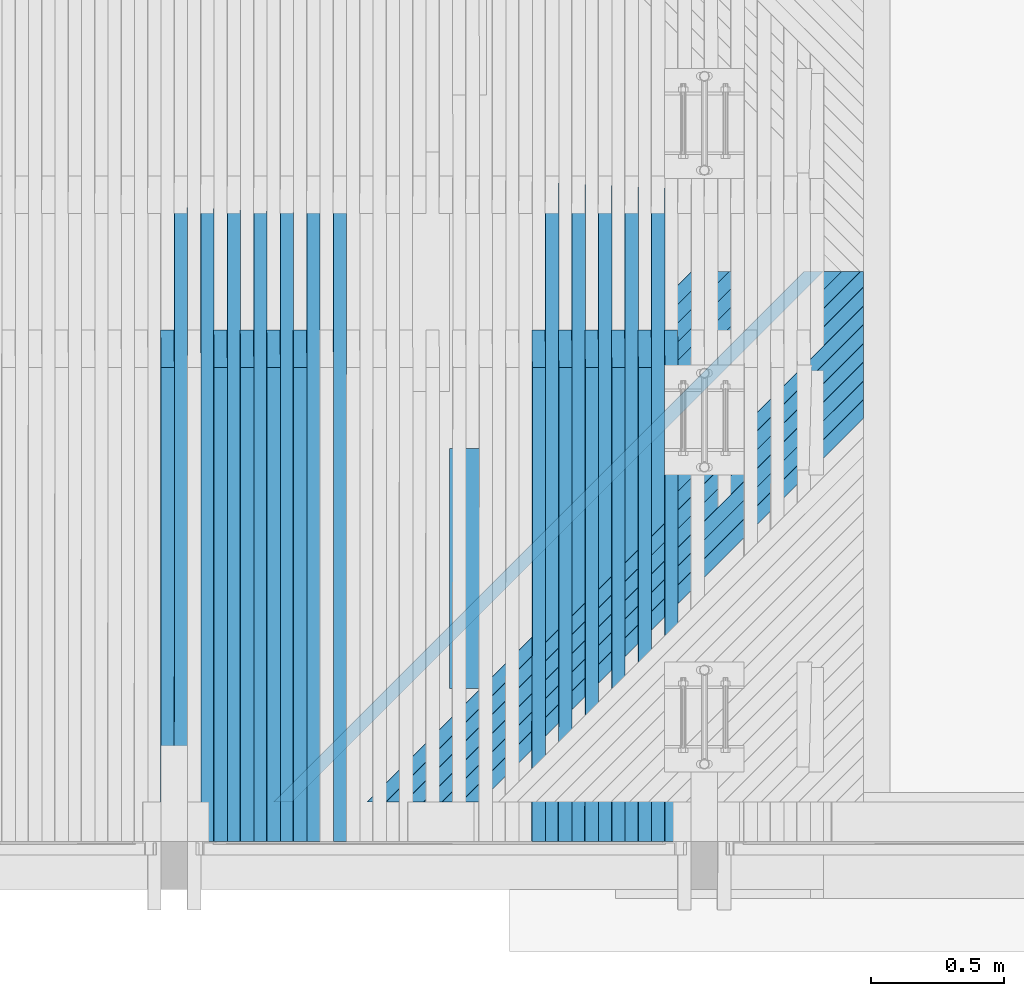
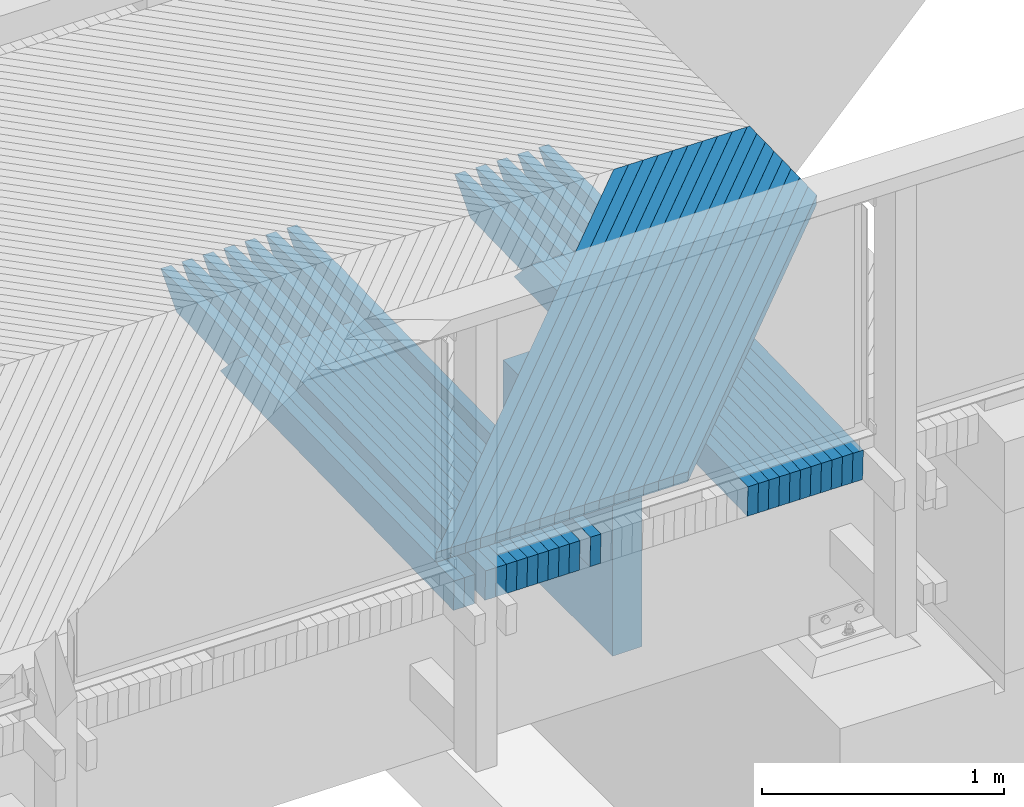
# One storey, part 42 of 65: 41 beams.
"""IFC2X3 building model written with IfcOpenShell, lengths in millimetres."""

import ifcopenshell
import ifcopenshell.guid

model = None  # the IFC model being written
_history = None  # IfcOwnerHistory: only IFC2X3 demands one
_inside = {}  # id of a spatial element -> (the spatial element, [elements in it])
_under = {}  # id of a project, library or spatial element -> (it, [spatial elements below it])
_declared = {}  # id of a project -> (the project, [libraries it declares])
_typed = {}  # id of a type object -> (the type object, [elements of that type])
_made_of = {}  # id of a material, layer set ... -> (it, [elements and type objects made of it])


def new_model(schema):
    """Start an empty IFC model of exactly this schema.

    Asked for "IFC4X3", IfcOpenShell would pick the latest addendum, in which some entities
    have other attributes; the version numbers below select the first issue.
    IFC2X3 requires an IfcOwnerHistory on every rooted entity: one is made here for all.
    """
    global model, _history
    if schema == "IFC4X3":
        model = ifcopenshell.file(schema_version=(4, 3, 0, 0))
    else:
        model = ifcopenshell.file(schema=schema)
    _inside.clear()
    _under.clear()
    _declared.clear()
    _typed.clear()
    _made_of.clear()
    _history = None
    if model.schema == "IFC2X3":
        org = make("IfcOrganization", Name="unknown")
        user = make(
            "IfcPersonAndOrganization",
            ThePerson=make("IfcPerson", FamilyName="unknown"),
            TheOrganization=org,
        )
        app = make(
            "IfcApplication",
            ApplicationDeveloper=org,
            Version="unknown",
            ApplicationFullName="unknown",
            ApplicationIdentifier="unknown",
        )
        _history = make(
            "IfcOwnerHistory",
            OwningUser=user,
            OwningApplication=app,
            ChangeAction="ADDED",
            CreationDate=0,
        )
    return model


def make(cls, **values):
    """One entity of the class cls with the attributes given. An attribute that is None is left unset."""
    return model.create_entity(
        cls, **{name: value for name, value in values.items() if value is not None}
    )


def rooted(cls, **values):
    """An entity with a GlobalId (a new one), such as an element, a storey or a relation."""
    return make(cls, GlobalId=ifcopenshell.guid.new(), OwnerHistory=_history, **values)


def si_unit(unit_type, name, prefix=None):
    """IfcSIUnit, for example si_unit("LENGTHUNIT", "METRE", prefix="MILLI")."""
    return make("IfcSIUnit", UnitType=unit_type, Prefix=prefix, Name=name)


def assignment(units):
    """IfcUnitAssignment: the units of a project."""
    return None if units is None else make("IfcUnitAssignment", Units=units)


def point(xyz):
    """IfcCartesianPoint."""
    return None if xyz is None else make("IfcCartesianPoint", Coordinates=xyz)


def direction(xyz):
    """IfcDirection."""
    return None if xyz is None else make("IfcDirection", DirectionRatios=xyz)


def frame(location, z_axis=None, x_axis=None):
    """IfcAxis2Placement3D, a coordinate frame: its origin and axes. An axis left out is left unset."""
    return make(
        "IfcAxis2Placement3D",
        Location=point(location),
        Axis=direction(z_axis),
        RefDirection=direction(x_axis),
    )


def origin_with_axes():
    """The frame at (0, 0, 0) with the z axis (0, 0, 1) and the x axis (1, 0, 0) written out."""
    return frame((0.0, 0.0, 0.0), z_axis=(0.0, 0.0, 1.0), x_axis=(1.0, 0.0, 0.0))


def place(relative_to, where):
    """IfcLocalPlacement: puts the frame where relative to a parent placement (None: the world)."""
    return make(
        "IfcLocalPlacement", PlacementRelTo=relative_to, RelativePlacement=where
    )


def context(
    kind, dimensions, precision=None, world=None, true_north=None, identifier=None
):
    """IfcGeometricRepresentationContext, for example the 3D "Model" context."""
    return make(
        "IfcGeometricRepresentationContext",
        ContextIdentifier=identifier,
        ContextType=kind,
        CoordinateSpaceDimension=dimensions,
        Precision=precision,
        WorldCoordinateSystem=world,
        TrueNorth=true_north,
    )


def subcontext(parent, identifier, kind, view, scale=None):
    """IfcGeometricRepresentationSubContext, for example "Body" below "Model"."""
    return make(
        "IfcGeometricRepresentationSubContext",
        ContextIdentifier=identifier,
        ContextType=kind,
        ParentContext=parent,
        TargetScale=scale,
        TargetView=view,
    )


def project(units=None, contexts=None):
    """IfcProject with its units and contexts."""
    return rooted(
        "IfcProject",
        Name="project",
        RepresentationContexts=contexts,
        UnitsInContext=assignment(units),
    )


def spatial(cls, under=None, at=None, **own):
    """A site, building, storey or space (cls), placed at a placement, below another one or the project."""
    s = rooted(cls, ObjectPlacement=at, **own)
    if under is not None:
        _under.setdefault(under.id(), (under, []))[1].append(s)
    return s


def faces_of(points, faces, orient=None, outer=None):
    """IfcFace entities. A face is a list of loops; a loop is a list of indices into points, from 0.

    orient and outer hold one flag for each loop. By default every Orientation is true, the
    first loop of a face is its IfcFaceOuterBound and the others are IfcFaceBound.
    """
    made = []
    for i, loops in enumerate(faces):
        bounds = []
        for j, loop in enumerate(loops):
            is_outer = j == 0 if outer is None else outer[i][j]
            bounds.append(
                make(
                    "IfcFaceOuterBound" if is_outer else "IfcFaceBound",
                    Bound=make("IfcPolyLoop", Polygon=[points[k] for k in loop]),
                    Orientation=True if orient is None else orient[i][j],
                )
            )
        made.append(make("IfcFace", Bounds=bounds))
    return made


def faceted_brep(points, faces, orient=None, outer=None, voids=None):
    """IfcFacetedBrep: a solid bounded by flat faces; with voids (closed shells), ...WithVoids."""
    shared = [point(p) for p in points]
    hull = make("IfcClosedShell", CfsFaces=faces_of(shared, faces, orient, outer))
    if voids is None:
        return make("IfcFacetedBrep", Outer=hull)
    return make(
        "IfcFacetedBrepWithVoids",
        Outer=hull,
        Voids=[
            make(cls, CfsFaces=faces_of(shared, fs, o, b)) for cls, fs, o, b in voids
        ],
    )


def shape(context_of_items, identifier, shape_type, items):
    """IfcShapeRepresentation: the items that make up one representation, for example the "Body"."""
    return make(
        "IfcShapeRepresentation",
        ContextOfItems=context_of_items,
        RepresentationIdentifier=identifier,
        RepresentationType=shape_type,
        Items=items,
    )


def material(Name=None, Category=None):
    """IfcMaterial."""
    return make("IfcMaterial", Name=Name, Category=Category)


def made_of(thing, what):
    """Note that an element or type object is made of a material, layer set ...; save() writes the relation."""
    if what is not None:
        _made_of.setdefault(what.id(), (what, []))[1].append(thing)
    return thing


def type_object(cls, material=None, **own):
    """A type object (cls), such as IfcWallType, which elements share."""
    return made_of(rooted(cls, **own), material)


def element(
    cls,
    number,
    at=None,
    inside=None,
    cuts=None,
    type_object=None,
    material=None,
    context=None,
    identifier="Body",
    shape_type=None,
    held_by="IfcProductDefinitionShape",
    body=None,
    shapes=None,
    **own,
):
    """One element of the class cls, such as IfcWall. Its Tag is "e" and its number.

    at: its placement. inside: the storey or other place that contains it. cuts: it is an
    opening in that element (IfcRelVoidsElement). A single representation is given by context,
    identifier, shape_type and body (its items); several are given by shapes. held_by: the class
    of the entity that holds the representations. save() writes the other relations.
    """
    e = rooted(cls, Tag="e%d" % number, ObjectPlacement=at, **own)
    if body is not None:
        shapes = [shape(context, identifier, shape_type, body)]
    if shapes is not None:
        e.Representation = make(held_by, Representations=shapes)
    if inside is not None:
        _inside.setdefault(inside.id(), (inside, []))[1].append(e)
    if cuts is not None:
        rooted(
            "IfcRelVoidsElement", RelatingBuildingElement=cuts, RelatedOpeningElement=e
        )
    if type_object is not None:
        _typed.setdefault(type_object.id(), (type_object, []))[1].append(e)
    return made_of(e, material)


def aggregate(whole, parts):
    """IfcRelAggregates: a whole, such as a stair, and the parts it consists of."""
    return rooted("IfcRelAggregates", RelatingObject=whole, RelatedObjects=parts)


def save(model, path):
    """Write the relations noted so far, then the file.

    IfcRelAggregates (storeys below a building ...), IfcRelContainedInSpatialStructure (elements
    in a storey), IfcRelDefinesByType, IfcRelAssociatesMaterial and IfcRelDeclares: one each for
    every whole, place, type object, material and project.
    """
    for whole, parts in _under.values():
        aggregate(whole, parts)
    for where, things in _inside.values():
        rooted(
            "IfcRelContainedInSpatialStructure",
            RelatedElements=things,
            RelatingStructure=where,
        )
    for kind, things in _typed.values():
        rooted("IfcRelDefinesByType", RelatedObjects=things, RelatingType=kind)
    for what, things in _made_of.values():
        rooted("IfcRelAssociatesMaterial", RelatedObjects=things, RelatingMaterial=what)
    for by, libraries in _declared.values():
        rooted("IfcRelDeclares", RelatingContext=by, RelatedDefinitions=libraries)
    model.write(path)


model = new_model("IFC2X3")

# Units and contexts
model_context = context("Model", 3, precision=1e-05, world=origin_with_axes())
body_context = subcontext(model_context, "Body", "Model", "MODEL_VIEW")
ifc_project = project(units=[si_unit("LENGTHUNIT", "METRE", prefix="MILLI"), si_unit("AREAUNIT", "SQUARE_METRE"), si_unit("VOLUMEUNIT", "CUBIC_METRE"), si_unit("MASSUNIT", "GRAM", prefix="KILO"), si_unit("TIMEUNIT", "SECOND"), si_unit("PLANEANGLEUNIT", "RADIAN"), si_unit("SOLIDANGLEUNIT", "STERADIAN"), si_unit("THERMODYNAMICTEMPERATUREUNIT", "DEGREE_CELSIUS"), si_unit("LUMINOUSINTENSITYUNIT", "LUMEN")], contexts=[model_context])

# Site, building, storey
site_placement = place(None, origin_with_axes())
site = spatial("IfcSite", under=ifc_project, at=site_placement, Name="Undefined", CompositionType="ELEMENT")
building_placement = place(site_placement, origin_with_axes())
building = spatial("IfcBuilding", under=site, at=building_placement, Name="Undefined", CompositionType="ELEMENT")
storey_placement = place(building_placement, origin_with_axes())
storey = spatial("IfcBuildingStorey", under=building, at=storey_placement, Name="Undefined", CompositionType="ELEMENT", Elevation=0.0)

# Beams
ifc_material = material(Name="TIMBER/Timber_Undefined")
beam_type_1 = type_object("IfcBeamType", Name="945*140", PredefinedType="NOTDEFINED")
beam_1_placement = place(storey_placement, frame((15109.0, 21697.5, 2500.4679002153), z_axis=(0.0, 0.0, 1.0), x_axis=(0.0, -1.0, 0.0)))
element("IfcBeam", 1, at=beam_1_placement, inside=storey, type_object=beam_type_1, material=ifc_material, Name="PALKKI", ObjectType="945*140", context=body_context, shape_type="Brep", body=[
    faceted_brep([(0.0, 70.0, -472.5), (0.0, 70.0, 472.5), (905.0, 70.0, 472.5), (905.0, 70.0, -472.5), (0.0, -70.0, 472.5), (905.0, -70.0, 472.5), (0.0, -70.0, -472.5), (905.0, -70.0, -472.5)], [[[0, 1, 2, 3]], [[1, 4, 5, 2]], [[4, 6, 7, 5]], [[6, 0, 3, 7]], [[5, 7, 3, 2]], [[6, 4, 1, 0]]]),
])
beam_type_2 = type_object("IfcBeamType", Name="50*50", PredefinedType="NOTDEFINED")
beam_2_placement = place(storey_placement, frame((17117.4357443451, 22364.5001003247, 3167.08782657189), z_axis=(0.706838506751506, -0.706981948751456, -0.0235764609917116), x_axis=(-0.707249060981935, -0.706948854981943, -0.00469916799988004)))
element("IfcBeam", 2, at=beam_2_placement, inside=storey, type_object=beam_type_2, material=ifc_material, Name="BEAM", ObjectType="50*50", context=body_context, shape_type="Brep", body=[
    faceted_brep([(2802.92643296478, -25.0, 25.0000000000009), (2852.92877373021, -25.0000000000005, -24.9999999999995), (2854.34301907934, 24.9999999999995, -25.0), (2804.3406783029, 25.0, 25.0000000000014), (706.160221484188, 25.0, -25.0000000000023), (756.131196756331, 24.9999999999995, 25.0), (757.074649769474, -25.0, 24.999999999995), (707.103674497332, -24.9999999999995, -25.0000000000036)], [[[0, 1, 2, 3]], [[3, 2, 4, 5]], [[0, 3, 5, 6]], [[1, 0, 6, 7]], [[2, 1, 7, 4]], [[6, 5, 4, 7]]]),
])
beam_3_placement = place(storey_placement, frame((17046.7195569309, 22364.5001003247, 3168.15461339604), z_axis=(0.706841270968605, -0.706981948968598, -0.0234934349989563), x_axis=(-0.707248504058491, -0.706948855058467, -0.00478224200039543)))
element("IfcBeam", 3, at=beam_3_placement, inside=storey, type_object=beam_type_2, material=ifc_material, Name="BEAM", ObjectType="50*50", context=body_context, shape_type="Brep", body=[
    faceted_brep([(2802.92643296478, -25.0, 25.0000000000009), (2852.92877373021, -25.0000000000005, -24.9999999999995), (2854.34301907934, 24.9999999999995, -25.0), (2804.3406783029, 25.0, 25.0000000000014), (606.177079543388, 24.9999999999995, -25.0000000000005), (656.148289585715, 24.9999999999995, 24.9999999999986), (657.083441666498, -25.0000000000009, 24.9999999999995), (607.112231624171, -25.0000000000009, -25.0000000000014)], [[[0, 1, 2, 3]], [[3, 2, 4, 5]], [[0, 3, 5, 6]], [[1, 0, 6, 7]], [[2, 1, 7, 4]], [[6, 5, 4, 7]]]),
])
beam_4_placement = place(storey_placement, frame((16976.0032446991, 22364.5001003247, 3169.21309384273), z_axis=(0.70684402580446, -0.706981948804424, -0.0234104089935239), x_axis=(-0.707247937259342, -0.706948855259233, -0.00486531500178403)))
element("IfcBeam", 4, at=beam_4_placement, inside=storey, type_object=beam_type_2, material=ifc_material, Name="BEAM", ObjectType="50*50", context=body_context, shape_type="Brep", body=[
    faceted_brep([(2802.92643296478, -25.0, 25.0000000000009), (2852.92877373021, -25.0000000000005, -24.9999999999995), (2854.34301907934, 24.9999999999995, -25.0), (2804.3406783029, 25.0, 25.0000000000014), (506.193611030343, 24.9999999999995, -25.0000000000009), (556.165055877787, 24.9999999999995, 24.9999999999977), (557.091907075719, -25.0000000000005, 25.0000000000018), (507.120462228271, -25.0000000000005, -25.0000000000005)], [[[0, 1, 2, 3]], [[3, 2, 4, 5]], [[0, 3, 5, 6]], [[1, 0, 6, 7]], [[2, 1, 7, 4]], [[6, 5, 4, 7]]]),
])
beam_5_placement = place(storey_placement, frame((16905.2868086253, 22364.5001003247, 3170.26326789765), z_axis=(0.706846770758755, -0.70698194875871, -0.0233273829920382), x_axis=(-0.707247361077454, -0.706948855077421, -0.00494838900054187)))
element("IfcBeam", 5, at=beam_5_placement, inside=storey, type_object=beam_type_2, material=ifc_material, Name="BEAM", ObjectType="50*50", context=body_context, shape_type="Brep", body=[
    faceted_brep([(2802.92643296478, -25.0, 25.0000000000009), (2852.92877373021, -25.0000000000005, -24.9999999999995), (2854.34301907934, 24.9999999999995, -25.0), (2804.3406783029, 25.0, 25.0000000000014), (406.209812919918, 25.0, -25.0000000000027), (456.181492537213, 24.9999999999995, 24.9999999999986), (457.100042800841, -25.0000000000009, 24.9999999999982), (407.128363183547, -25.0000000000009, -25.0000000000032)], [[[0, 1, 2, 3]], [[3, 2, 4, 5]], [[0, 3, 5, 6]], [[1, 0, 6, 7]], [[2, 1, 7, 4]], [[6, 5, 4, 7]]]),
])
beam_6_placement = place(storey_placement, frame((16834.5702496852, 22364.5001003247, 3171.30513554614), z_axis=(0.706849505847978, -0.706981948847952, -0.023244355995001), x_axis=(-0.707246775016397, -0.70694885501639, -0.00503146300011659)))
element("IfcBeam", 6, at=beam_6_placement, inside=storey, type_object=beam_type_2, material=ifc_material, Name="BEAM", ObjectType="50*50", context=body_context, shape_type="Brep", body=[
    faceted_brep([(2802.92643296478, -25.0, 25.0000000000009), (2852.92877373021, -25.0000000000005, -24.9999999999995), (2854.34301907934, 24.9999999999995, -25.0), (2804.3406783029, 25.0, 25.0000000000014), (306.225682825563, 25.0, -25.0000000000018), (356.197597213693, 25.0000000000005, 24.9999999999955), (357.107846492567, -25.0, 24.9999999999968), (307.13593210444, -24.9999999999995, -25.0000000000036)], [[[0, 1, 2, 3]], [[3, 2, 4, 5]], [[0, 3, 5, 6]], [[1, 0, 6, 7]], [[2, 1, 7, 4]], [[6, 5, 4, 7]]]),
])
beam_7_placement = place(storey_placement, frame((16763.8535688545, 22364.5001003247, 3172.33869677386), z_axis=(0.706852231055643, -0.706981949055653, -0.0231613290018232), x_axis=(-0.707246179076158, -0.706948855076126, -0.0051145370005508)))
element("IfcBeam", 7, at=beam_7_placement, inside=storey, type_object=beam_type_2, material=ifc_material, Name="BEAM", ObjectType="50*50", context=body_context, shape_type="Brep", body=[
    faceted_brep([(2802.92643296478, -25.0, 25.0000000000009), (2852.92877373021, -25.0000000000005, -24.9999999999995), (2854.34301907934, 24.9999999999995, -25.0), (2804.3406783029, 25.0, 25.0000000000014), (206.241217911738, 25.0000000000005, -25.0), (256.213367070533, 25.0000000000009, 25.0000000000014), (257.115315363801, -25.0, 25.0000000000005), (207.143166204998, -25.0, -25.0000000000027)], [[[0, 1, 2, 3]], [[3, 2, 4, 5]], [[0, 3, 5, 6]], [[1, 0, 6, 7]], [[2, 1, 7, 4]], [[6, 5, 4, 7]]]),
])
beam_8_placement = place(storey_placement, frame((16693.1367671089, 22364.5001003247, 3173.36395156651), z_axis=(0.706854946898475, -0.706981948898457, -0.0230783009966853), x_axis=(-0.7072455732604, -0.706948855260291, -0.00519761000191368)))
element("IfcBeam", 8, at=beam_8_placement, inside=storey, type_object=beam_type_2, material=ifc_material, Name="BEAM", ObjectType="50*50", context=body_context, shape_type="Brep", body=[
    faceted_brep([(2802.92643296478, -25.0, 25.0000000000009), (2852.92877373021, -25.0000000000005, -24.9999999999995), (2854.34301907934, 24.9999999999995, -25.0), (2804.3406783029, 25.0, 25.0000000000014), (106.256415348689, 25.0000000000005, -25.0), (156.228799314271, 25.0, 25.0000000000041), (157.122446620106, -25.0, 25.0000000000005), (107.150062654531, -25.0000000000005, -24.9999999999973)], [[[0, 1, 2, 3]], [[3, 2, 4, 5]], [[0, 3, 5, 6]], [[1, 0, 6, 7]], [[2, 1, 7, 4]], [[6, 5, 4, 7]]]),
])
beam_9_placement = place(storey_placement, frame((16622.419845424, 22364.5001003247, 3174.38089991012), z_axis=(0.70685765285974, -0.706981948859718, -0.0229952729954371), x_axis=(-0.707244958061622, -0.706948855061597, -0.00528068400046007)))
element("IfcBeam", 9, at=beam_9_placement, inside=storey, type_object=beam_type_2, material=ifc_material, Name="BEAM", ObjectType="50*50", context=body_context, shape_type="Brep", body=[
    faceted_brep([(2802.92643296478, -25.0, 25.0000000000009), (2852.92877373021, -25.0000000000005, -24.9999999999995), (2854.34301907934, 24.9999999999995, -25.0), (2804.3406783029, 25.0, 25.0000000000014), (23.4806436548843, -24.9999999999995, -25.0000000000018), (24.8942457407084, 25.0000000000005, -25.0000000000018), (15.3243279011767, -25.0000000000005, -16.8278154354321), (15.5892580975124, 25.0000000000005, -15.6769087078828), (56.2438911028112, 25.0, 25.0), (57.1292373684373, -25.0000000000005, 25.0000000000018)], [[[0, 1, 2, 3]], [[4, 5, 2, 1]], [[5, 4, 6, 7]], [[3, 2, 5, 7, 8]], [[0, 3, 8, 9]], [[4, 1, 0, 9, 6]], [[8, 7, 6, 9]]]),
])
for number, where, z_axis, x_axis, name in (
    (10, (16551.7028047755, 22364.5001003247, 3175.38954179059), (0.706860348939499, -0.70698194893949, -0.0229122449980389), (-0.707244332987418, -0.706948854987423, -0.00536375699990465), "BEAM"),
    (11, (16480.9856461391, 22364.5001003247, 3176.38987719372), (0.706863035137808, -0.706981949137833, -0.0228292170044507), (-0.707243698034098, -0.706948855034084, -0.00544683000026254), "BEAM"),
    (12, (16410.2683704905, 22364.5001003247, 3177.38190610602), (0.706865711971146, -0.706981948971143, -0.0227461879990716), (-0.707243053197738, -0.706948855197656, -0.00552990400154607), "BEAM"),
    (13, (16339.5509788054, 22364.5001003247, 3178.36562851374), (0.706868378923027, -0.706981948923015, -0.0226631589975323), (-0.707242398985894, -0.7069488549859, -0.00561297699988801), "BEAM"),
    (14, (16268.8334720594, 22364.5001003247, 3179.34104440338), (0.706871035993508, -0.706981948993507, -0.0225801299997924), (-0.707241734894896, -0.706948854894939, -0.00569604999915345), "BEAM"),
    (15, (16198.1158512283, 22364.5001003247, 3180.30815376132), (0.706873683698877, -0.706981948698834, -0.0224970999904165), (-0.707241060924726, -0.706948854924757, -0.00577912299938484), "BEAM"),
    (16, (16127.3981172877, 22364.5001003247, 3181.26695657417), (0.706876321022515, -0.706981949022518, -0.0224140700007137), (-0.707240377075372, -0.706948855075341, -0.00586219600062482), "BEAM"),
    (17, (16056.6802712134, 22364.5001003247, 3182.21745282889), (0.706878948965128, -0.706981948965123, -0.0223310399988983), (-0.70723968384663, -0.706948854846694, -0.00594526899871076), "BEAM"),
    (18, (15985.962313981, 22364.5001003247, 3183.15964251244), (0.706881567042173, -0.706981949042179, -0.0222480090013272), (-0.707238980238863, -0.706948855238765, -0.00602834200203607), "BEAM"),
):
    element("IfcBeam", number, at=place(storey_placement, frame(where, z_axis=z_axis, x_axis=x_axis)), inside=storey, type_object=beam_type_2, material=ifc_material, Name=name, ObjectType="50*50", context=body_context, shape_type="Brep", body=[
        faceted_brep([(24.8942457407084, 25.0000000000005, -25.0000000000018), (-25.0086637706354, 24.9999999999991, 25.0), (2804.3406783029, 25.0, 25.0000000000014), (2854.34301907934, 24.9999999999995, -25.0), (-26.4222658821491, -25.0000000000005, 25.0), (2802.92643296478, -25.0, 25.0000000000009), (23.4806436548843, -24.9999999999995, -25.0000000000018), (2852.92877373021, -25.0000000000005, -24.9999999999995)], [[[0, 1, 2, 3]], [[1, 4, 5, 2]], [[4, 6, 7, 5]], [[6, 0, 3, 7]], [[5, 7, 3, 2]], [[6, 4, 1, 0]]]),
    ])
beam_type_3 = type_object("IfcBeamType", Name="150*50", PredefinedType="NOTDEFINED")
for number, where, z_axis, x_axis, name in (
    (19, (15874.7290061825, 20216.5046076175, 3041.62863633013), (0.0130016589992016, -0.0199960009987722, 0.999715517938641), (0.000260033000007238, 0.999800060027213, 0.0199943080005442), "BEAM"),
    (20, (15774.717424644, 20216.5046076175, 3042.92875591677), (0.0128355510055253, -0.019996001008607, 0.999717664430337), (0.000256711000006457, 0.999800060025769, 0.0199943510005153), "BEAM"),
):
    element("IfcBeam", number, at=place(storey_placement, frame(where, z_axis=z_axis, x_axis=x_axis)), inside=storey, type_object=beam_type_3, material=ifc_material, Name=name, ObjectType="150*50", context=body_context, shape_type="Brep", body=[
        faceted_brep([(-1.6778358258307e-07, -24.9999999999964, -74.9999999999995), (1.67790858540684e-07, -24.9999999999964, 75.0000000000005), (1.67790858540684e-07, 25.0000000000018, 74.9999999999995), (-1.6778358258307e-07, 25.0000000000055, -75.0), (1789.96936433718, -25.0000000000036, 74.9999999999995), (1789.96936408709, 24.9999999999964, 75.0), (1928.42646328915, 24.9999999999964, -75.0), (1928.42646353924, -25.0, -75.0000000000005)], [[[0, 1, 2, 3]], [[2, 1, 4, 5]], [[3, 2, 5, 6]], [[0, 3, 6, 7]], [[1, 0, 7, 4]], [[6, 5, 4, 7]]]),
    ])
beam_10_placement = place(storey_placement, frame((15824.7332279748, 20216.5046076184, 3042.27828425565), z_axis=(0.0130016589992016, -0.0199960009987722, 0.999715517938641), x_axis=(0.000260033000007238, 0.999800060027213, 0.0199943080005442)))
element("IfcBeam", 21, at=beam_10_placement, inside=storey, type_object=beam_type_3, material=ifc_material, Name="BEAM", ObjectType="150*50", context=body_context, shape_type="Brep", body=[
    faceted_brep([(-1.6778358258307e-07, -24.9999999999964, -74.9999999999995), (1.67790858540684e-07, -24.9999999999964, 75.0000000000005), (1.67790858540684e-07, 25.0000000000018, 74.9999999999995), (-1.6778358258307e-07, 25.0000000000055, -75.0), (2375.00494422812, 25.0000000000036, -75.0), (2375.00494447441, -24.9999999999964, -74.9999999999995), (2510.59248714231, -24.9999999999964, 60.5875430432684), (2150.42514405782, -24.9999999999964, 75.0000000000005), (2150.42515052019, 25.0000000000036, 74.9999999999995), (2510.59248715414, 25.0000000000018, 60.5875433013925)], [[[0, 1, 2, 3]], [[0, 3, 4, 5]], [[1, 0, 5, 6, 7]], [[2, 1, 7, 8]], [[4, 3, 2, 8, 9]], [[5, 4, 9, 6]], [[6, 9, 8, 7]]]),
])
beam_11_placement = place(storey_placement, frame((15674.7056284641, 20216.5046076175, 3044.21225802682), z_axis=(0.012669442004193, -0.0199960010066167, 0.999719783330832), x_axis=(0.000253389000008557, 0.99980006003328, 0.0199943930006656)))
element("IfcBeam", 22, at=beam_11_placement, inside=storey, type_object=beam_type_3, material=ifc_material, Name="BEAM", ObjectType="150*50", context=body_context, shape_type="Brep", body=[
    faceted_brep([(-1.6778358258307e-07, -24.9999999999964, -74.9999999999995), (1.67790858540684e-07, -24.9999999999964, 75.0000000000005), (1.67790858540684e-07, 25.0000000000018, 74.9999999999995), (-1.6778358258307e-07, 25.0000000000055, -75.0), (1789.96936433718, -25.0000000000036, 74.9999999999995), (1789.96936408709, 24.9999999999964, 75.0), (1928.42646328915, 24.9999999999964, -75.0), (1928.42646353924, -25.0, -75.0000000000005)], [[[0, 1, 2, 3]], [[2, 1, 4, 5]], [[3, 2, 5, 6]], [[0, 3, 6, 7]], [[1, 0, 7, 4]], [[6, 5, 4, 7]]]),
])
beam_12_placement = place(storey_placement, frame((15724.7215391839, 20216.5046076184, 3043.57009676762), z_axis=(0.0128355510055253, -0.019996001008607, 0.999717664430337), x_axis=(0.000256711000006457, 0.999800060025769, 0.0199943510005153)))
element("IfcBeam", 23, at=beam_12_placement, inside=storey, type_object=beam_type_3, material=ifc_material, Name="BEAM", ObjectType="150*50", context=body_context, shape_type="Brep", body=[
    faceted_brep([(-1.6778358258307e-07, -24.9999999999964, -74.9999999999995), (1.67790858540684e-07, -24.9999999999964, 75.0000000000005), (1.67790858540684e-07, 25.0000000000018, 74.9999999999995), (-1.6778358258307e-07, 25.0000000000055, -75.0), (2375.00494422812, 25.0000000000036, -75.0), (2375.00494447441, -24.9999999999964, -74.9999999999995), (2510.59248714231, -24.9999999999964, 60.5875430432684), (2150.42514405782, -24.9999999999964, 75.0000000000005), (2150.42515052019, 25.0000000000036, 74.9999999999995), (2510.59248715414, 25.0000000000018, 60.5875433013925)], [[[0, 1, 2, 3]], [[0, 3, 4, 5]], [[1, 0, 5, 6, 7]], [[2, 1, 7, 8]], [[4, 3, 2, 8, 9]], [[5, 4, 9, 6]], [[6, 9, 8, 7]]]),
])
beam_13_placement = place(storey_placement, frame((15574.6936204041, 20216.5046076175, 3045.47914262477), z_axis=(0.0125033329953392, -0.0199960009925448, 0.999721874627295), x_axis=(0.000250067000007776, 0.999800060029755, 0.0199944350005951)))
element("IfcBeam", 24, at=beam_13_placement, inside=storey, type_object=beam_type_3, material=ifc_material, Name="BEAM", ObjectType="150*50", context=body_context, shape_type="Brep", body=[
    faceted_brep([(-1.6778358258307e-07, -24.9999999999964, -74.9999999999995), (1.67790858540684e-07, -24.9999999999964, 75.0000000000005), (1.67790858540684e-07, 25.0000000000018, 74.9999999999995), (-1.6778358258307e-07, 25.0000000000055, -75.0), (1789.96936433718, -25.0000000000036, 74.9999999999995), (1789.96936408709, 24.9999999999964, 75.0), (1928.42646328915, 24.9999999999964, -75.0), (1928.42646353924, -25.0, -75.0000000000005)], [[[0, 1, 2, 3]], [[2, 1, 4, 5]], [[3, 2, 5, 6]], [[0, 3, 6, 7]], [[1, 0, 7, 4]], [[6, 5, 4, 7]]]),
])
beam_14_placement = place(storey_placement, frame((15624.7096371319, 20216.5046076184, 3044.8452917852), z_axis=(0.012669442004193, -0.0199960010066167, 0.999719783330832), x_axis=(0.000253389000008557, 0.99980006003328, 0.0199943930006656)))
element("IfcBeam", 25, at=beam_14_placement, inside=storey, type_object=beam_type_3, material=ifc_material, Name="BEAM", ObjectType="150*50", context=body_context, shape_type="Brep", body=[
    faceted_brep([(-1.6778358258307e-07, -24.9999999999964, -74.9999999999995), (1.67790858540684e-07, -24.9999999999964, 75.0000000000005), (1.67790858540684e-07, 25.0000000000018, 74.9999999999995), (-1.6778358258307e-07, 25.0000000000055, -75.0), (2375.00494422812, 25.0000000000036, -75.0), (2375.00494447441, -24.9999999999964, -74.9999999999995), (2510.59248714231, -24.9999999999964, 60.5875430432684), (2150.42514405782, -24.9999999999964, 75.0000000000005), (2150.42515052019, 25.0000000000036, 74.9999999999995), (2510.59248715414, 25.0000000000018, 60.5875433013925)], [[[0, 1, 2, 3]], [[0, 3, 4, 5]], [[1, 0, 5, 6, 7]], [[2, 1, 7, 8]], [[4, 3, 2, 8, 9]], [[5, 4, 9, 6]], [[6, 9, 8, 7]]]),
])
beam_15_placement = place(storey_placement, frame((15474.6814032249, 20216.5046076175, 3046.72940967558), z_axis=(0.0123372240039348, -0.0199960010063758, 0.999723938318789), x_axis=(0.000246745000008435, 0.999800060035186, 0.0199944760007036)))
element("IfcBeam", 26, at=beam_15_placement, inside=storey, type_object=beam_type_3, material=ifc_material, Name="BEAM", ObjectType="150*50", context=body_context, shape_type="Brep", body=[
    faceted_brep([(-1.6778358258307e-07, -24.9999999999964, -74.9999999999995), (1.67790858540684e-07, -24.9999999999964, 75.0000000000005), (1.67790858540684e-07, 25.0000000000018, 74.9999999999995), (-1.6778358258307e-07, 25.0000000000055, -75.0), (1789.96936433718, -25.0000000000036, 74.9999999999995), (1789.96936408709, 24.9999999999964, 75.0), (1928.42646328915, 24.9999999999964, -75.0), (1928.42646353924, -25.0, -75.0000000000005)], [[[0, 1, 2, 3]], [[2, 1, 4, 5]], [[3, 2, 5, 6]], [[0, 3, 6, 7]], [[1, 0, 7, 4]], [[6, 5, 4, 7]]]),
])
beam_16_placement = place(storey_placement, frame((15524.6975245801, 20216.5046076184, 3046.10386927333), z_axis=(0.0125033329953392, -0.0199960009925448, 0.999721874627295), x_axis=(0.000250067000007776, 0.999800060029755, 0.0199944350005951)))
element("IfcBeam", 27, at=beam_16_placement, inside=storey, type_object=beam_type_3, material=ifc_material, Name="BEAM", ObjectType="150*50", context=body_context, shape_type="Brep", body=[
    faceted_brep([(-1.6778358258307e-07, -24.9999999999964, -74.9999999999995), (1.67790858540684e-07, -24.9999999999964, 75.0000000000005), (1.67790858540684e-07, 25.0000000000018, 74.9999999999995), (-1.6778358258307e-07, 25.0000000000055, -75.0), (2375.00494422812, 25.0000000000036, -75.0), (2375.00494447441, -24.9999999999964, -74.9999999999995), (2510.59248714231, -24.9999999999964, 60.5875430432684), (2150.42514405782, -24.9999999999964, 75.0000000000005), (2150.42515052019, 25.0000000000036, 74.9999999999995), (2510.59248715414, 25.0000000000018, 60.5875433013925)], [[[0, 1, 2, 3]], [[0, 3, 4, 5]], [[1, 0, 5, 6, 7]], [[2, 1, 7, 8]], [[4, 3, 2, 8, 9]], [[5, 4, 9, 6]], [[6, 9, 8, 7]]]),
])
beam_17_placement = place(storey_placement, frame((15374.6689796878, 20216.5046076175, 3047.96305914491), z_axis=(0.0121711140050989, -0.0199960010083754, 0.999725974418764), x_axis=(0.000243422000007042, 0.999800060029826, 0.0199945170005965)))
element("IfcBeam", 28, at=beam_17_placement, inside=storey, type_object=beam_type_3, material=ifc_material, Name="BEAM", ObjectType="150*50", context=body_context, shape_type="Brep", body=[
    faceted_brep([(-1.6778358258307e-07, -24.9999999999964, -74.9999999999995), (1.67790858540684e-07, -24.9999999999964, 75.0000000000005), (1.67790858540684e-07, 25.0000000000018, 74.9999999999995), (-1.6778358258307e-07, 25.0000000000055, -75.0), (1789.96936433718, -25.0000000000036, 74.9999999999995), (1789.96936408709, 24.9999999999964, 75.0), (1928.42646328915, 24.9999999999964, -75.0), (1928.42646353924, -25.0, -75.0000000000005)], [[[0, 1, 2, 3]], [[2, 1, 4, 5]], [[3, 2, 5, 6]], [[0, 3, 6, 7]], [[1, 0, 7, 4]], [[6, 5, 4, 7]]]),
])
for number, where, z_axis, x_axis, name in (
    (29, (15424.6852042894, 20216.5046076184, 3047.34582919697), (0.0123372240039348, -0.0199960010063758, 0.999723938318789), (0.000246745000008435, 0.999800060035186, 0.0199944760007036), "BEAM"),
    (30, (14624.5794946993, 20216.5046076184, 3056.68327225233), (0.0110083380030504, -0.0199960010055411, 0.999739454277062), (0.000220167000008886, 0.999800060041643, 0.0199947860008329), "BEAM"),
):
    element("IfcBeam", number, at=place(storey_placement, frame(where, z_axis=z_axis, x_axis=x_axis)), inside=storey, type_object=beam_type_3, material=ifc_material, Name=name, ObjectType="150*50", context=body_context, shape_type="Brep", body=[
        faceted_brep([(-1.6778358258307e-07, -24.9999999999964, -74.9999999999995), (1.67790858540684e-07, -24.9999999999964, 75.0000000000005), (1.67790858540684e-07, 25.0000000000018, 74.9999999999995), (-1.6778358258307e-07, 25.0000000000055, -75.0), (2375.00494422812, 25.0000000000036, -75.0), (2375.00494447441, -24.9999999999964, -74.9999999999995), (2510.59248714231, -24.9999999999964, 60.5875430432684), (2150.42514405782, -24.9999999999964, 75.0000000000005), (2150.42515052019, 25.0000000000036, 74.9999999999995), (2510.59248715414, 25.0000000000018, 60.5875433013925)], [[[0, 1, 2, 3]], [[0, 3, 4, 5]], [[1, 0, 5, 6, 7]], [[2, 1, 7, 8]], [[4, 3, 2, 8, 9]], [[5, 4, 9, 6]], [[6, 9, 8, 7]]]),
    ])
beam_18_placement = place(storey_placement, frame((14474.5483373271, 20216.5046076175, 3058.31810772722), z_axis=(0.0106761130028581, -0.0199960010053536, 0.999743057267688), x_axis=(0.000213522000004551, 0.999800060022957, 0.0199948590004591)))
element("IfcBeam", 31, at=beam_18_placement, inside=storey, type_object=beam_type_3, material=ifc_material, Name="BEAM", ObjectType="150*50", context=body_context, shape_type="Brep", body=[
    faceted_brep([(-1.6778358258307e-07, -24.9999999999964, -74.9999999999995), (1.67790858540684e-07, -24.9999999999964, 75.0000000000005), (1.67790858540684e-07, 25.0000000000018, 74.9999999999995), (-1.6778358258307e-07, 25.0000000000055, -75.0), (1789.96936433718, -25.0000000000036, 74.9999999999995), (1789.96936408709, 24.9999999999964, 75.0), (1928.42646328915, 24.9999999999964, -75.0), (1928.42646353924, -25.0, -75.0000000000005)], [[[0, 1, 2, 3]], [[2, 1, 4, 5]], [[3, 2, 5, 6]], [[0, 3, 6, 7]], [[1, 0, 7, 4]], [[6, 5, 4, 7]]]),
])
beam_19_placement = place(storey_placement, frame((14524.5654290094, 20216.5046076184, 3057.77567260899), z_axis=(0.0108422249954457, -0.0199960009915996, 0.999741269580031), x_axis=(0.000216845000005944, 0.999800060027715, 0.0199948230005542)))
element("IfcBeam", 32, at=beam_19_placement, inside=storey, type_object=beam_type_3, material=ifc_material, Name="BEAM", ObjectType="150*50", context=body_context, shape_type="Brep", body=[
    faceted_brep([(-1.6778358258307e-07, -24.9999999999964, -74.9999999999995), (1.67790858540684e-07, -24.9999999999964, 75.0000000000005), (1.67790858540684e-07, 25.0000000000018, 74.9999999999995), (-1.6778358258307e-07, 25.0000000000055, -75.0), (2375.00494422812, 25.0000000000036, -75.0), (2375.00494447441, -24.9999999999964, -74.9999999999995), (2510.59248714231, -24.9999999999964, 60.5875430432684), (2150.42514405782, -24.9999999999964, 75.0000000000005), (2150.42515052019, 25.0000000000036, 74.9999999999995), (2510.59248715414, 25.0000000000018, 60.5875433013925)], [[[0, 1, 2, 3]], [[0, 3, 4, 5]], [[1, 0, 5, 6, 7]], [[2, 1, 7, 8]], [[4, 3, 2, 8, 9]], [[5, 4, 9, 6]], [[6, 9, 8, 7]]]),
])
beam_20_placement = place(storey_placement, frame((14374.5340020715, 20216.5046076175, 3059.38557958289), z_axis=(0.0105100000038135, -0.0199960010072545, 0.99974481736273), x_axis=(0.000210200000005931, 0.999800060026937, 0.0199948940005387)))
element("IfcBeam", 33, at=beam_20_placement, inside=storey, type_object=beam_type_3, material=ifc_material, Name="BEAM", ObjectType="150*50", context=body_context, shape_type="Brep", body=[
    faceted_brep([(-1.6778358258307e-07, -24.9999999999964, -74.9999999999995), (1.67790858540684e-07, -24.9999999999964, 75.0000000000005), (1.67790858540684e-07, 25.0000000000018, 74.9999999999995), (-1.6778358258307e-07, 25.0000000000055, -75.0), (1789.96936433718, -25.0000000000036, 74.9999999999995), (1789.96936408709, 24.9999999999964, 75.0), (1928.42646328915, 24.9999999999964, -75.0), (1928.42646353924, -25.0, -75.0000000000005)], [[[0, 1, 2, 3]], [[2, 1, 4, 5]], [[3, 2, 5, 6]], [[0, 3, 6, 7]], [[1, 0, 7, 4]], [[6, 5, 4, 7]]]),
])
beam_21_placement = place(storey_placement, frame((14424.5511831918, 20216.5046076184, 3058.85145507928), z_axis=(0.0106761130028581, -0.0199960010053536, 0.999743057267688), x_axis=(0.000213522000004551, 0.999800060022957, 0.0199948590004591)))
element("IfcBeam", 34, at=beam_21_placement, inside=storey, type_object=beam_type_3, material=ifc_material, Name="BEAM", ObjectType="150*50", context=body_context, shape_type="Brep", body=[
    faceted_brep([(-1.6778358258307e-07, -24.9999999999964, -74.9999999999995), (1.67790858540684e-07, -24.9999999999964, 75.0000000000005), (1.67790858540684e-07, 25.0000000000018, 74.9999999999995), (-1.6778358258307e-07, 25.0000000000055, -75.0), (2375.00494422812, 25.0000000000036, -75.0), (2375.00494447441, -24.9999999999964, -74.9999999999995), (2510.59248714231, -24.9999999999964, 60.5875430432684), (2150.42514405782, -24.9999999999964, 75.0000000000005), (2150.42515052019, 25.0000000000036, 74.9999999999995), (2510.59248715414, 25.0000000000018, 60.5875433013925)], [[[0, 1, 2, 3]], [[0, 3, 4, 5]], [[1, 0, 5, 6, 7]], [[2, 1, 7, 8]], [[4, 3, 2, 8, 9]], [[5, 4, 9, 6]], [[6, 9, 8, 7]]]),
])
beam_22_placement = place(storey_placement, frame((14274.5194908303, 20216.5046076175, 3060.43643350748), z_axis=(0.010343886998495, -0.0199960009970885, 0.999746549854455), x_axis=(0.000206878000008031, 0.999800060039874, 0.0199949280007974)))
element("IfcBeam", 35, at=beam_22_placement, inside=storey, type_object=beam_type_3, material=ifc_material, Name="BEAM", ObjectType="150*50", context=body_context, shape_type="Brep", body=[
    faceted_brep([(-1.6778358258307e-07, -24.9999999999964, -74.9999999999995), (1.67790858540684e-07, -24.9999999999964, 75.0000000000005), (1.67790858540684e-07, 25.0000000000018, 74.9999999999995), (-1.6778358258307e-07, 25.0000000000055, -75.0), (1789.96936433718, -25.0000000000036, 74.9999999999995), (1789.96936408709, 24.9999999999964, 75.0), (1928.42646328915, 24.9999999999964, -75.0), (1928.42646353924, -25.0, -75.0000000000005)], [[[0, 1, 2, 3]], [[2, 1, 4, 5]], [[3, 2, 5, 6]], [[0, 3, 6, 7]], [[1, 0, 7, 4]], [[6, 5, 4, 7]]]),
])
beam_23_placement = place(storey_placement, frame((14324.5367600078, 20216.5046076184, 3059.91061963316), z_axis=(0.0105100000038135, -0.0199960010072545, 0.99974481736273), x_axis=(0.000210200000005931, 0.999800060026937, 0.0199948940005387)))
element("IfcBeam", 36, at=beam_23_placement, inside=storey, type_object=beam_type_3, material=ifc_material, Name="BEAM", ObjectType="150*50", context=body_context, shape_type="Brep", body=[
    faceted_brep([(-1.6778358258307e-07, -24.9999999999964, -74.9999999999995), (1.67790858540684e-07, -24.9999999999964, 75.0000000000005), (1.67790858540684e-07, 25.0000000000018, 74.9999999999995), (-1.6778358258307e-07, 25.0000000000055, -75.0), (2375.00494422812, 25.0000000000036, -75.0), (2375.00494447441, -24.9999999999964, -74.9999999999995), (2510.59248714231, -24.9999999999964, 60.5875430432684), (2150.42514405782, -24.9999999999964, 75.0000000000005), (2150.42515052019, 25.0000000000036, 74.9999999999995), (2510.59248715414, 25.0000000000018, 60.5875433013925)], [[[0, 1, 2, 3]], [[0, 3, 4, 5]], [[1, 0, 5, 6, 7]], [[2, 1, 7, 8]], [[4, 3, 2, 8, 9]], [[5, 4, 9, 6]], [[6, 9, 8, 7]]]),
])
beam_24_placement = place(storey_placement, frame((14174.5048063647, 20216.5046076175, 3061.47066947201), z_axis=(0.0101777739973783, -0.0199960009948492, 0.999748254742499), x_axis=(0.000203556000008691, 0.999800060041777, 0.0199949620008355)))
element("IfcBeam", 37, at=beam_24_placement, inside=storey, type_object=beam_type_3, material=ifc_material, Name="BEAM", ObjectType="150*50", context=body_context, shape_type="Brep", body=[
    faceted_brep([(-1.6778358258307e-07, -24.9999999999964, -74.9999999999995), (1.67790858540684e-07, -24.9999999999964, 75.0000000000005), (1.67790858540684e-07, 25.0000000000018, 74.9999999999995), (-1.6778358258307e-07, 25.0000000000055, -75.0), (1789.96936433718, -25.0000000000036, 74.9999999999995), (1789.96936408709, 24.9999999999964, 75.0), (1928.42646328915, 24.9999999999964, -75.0), (1928.42646353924, -25.0, -75.0000000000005)], [[[0, 1, 2, 3]], [[2, 1, 4, 5]], [[3, 2, 5, 6]], [[0, 3, 6, 7]], [[1, 0, 7, 4]], [[6, 5, 4, 7]]]),
])
for number, where, z_axis, x_axis, name in (
    (38, (14224.5221622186, 20216.5046076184, 3060.95316624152), (0.010343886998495, -0.0199960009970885, 0.999746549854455), (0.000206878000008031, 0.999800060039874, 0.0199949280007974), "BEAM"),
    (39, (14124.5073925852, 20216.5046076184, 3061.97909487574), (0.0101777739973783, -0.0199960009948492, 0.999748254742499), (0.000203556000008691, 0.999800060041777, 0.0199949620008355), "BEAM"),
):
    element("IfcBeam", number, at=place(storey_placement, frame(where, z_axis=z_axis, x_axis=x_axis)), inside=storey, type_object=beam_type_3, material=ifc_material, Name=name, ObjectType="150*50", context=body_context, shape_type="Brep", body=[
        faceted_brep([(-1.6778358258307e-07, -24.9999999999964, -74.9999999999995), (1.67790858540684e-07, -24.9999999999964, 75.0000000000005), (1.67790858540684e-07, 25.0000000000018, 74.9999999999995), (-1.6778358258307e-07, 25.0000000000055, -75.0), (2375.00494422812, 25.0000000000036, -75.0), (2375.00494447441, -24.9999999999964, -74.9999999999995), (2510.59248714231, -24.9999999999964, 60.5875430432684), (2150.42514405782, -24.9999999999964, 75.0000000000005), (2150.42515052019, 25.0000000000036, 74.9999999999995), (2510.59248715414, 25.0000000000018, 60.5875433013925)], [[[0, 1, 2, 3]], [[0, 3, 4, 5]], [[1, 0, 5, 6, 7]], [[2, 1, 7, 8]], [[4, 3, 2, 8, 9]], [[5, 4, 9, 6]], [[6, 9, 8, 7]]]),
    ])
beam_25_placement = place(storey_placement, frame((13974.4749288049, 20216.5046076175, 3063.48928740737), z_axis=(0.00984554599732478, -0.0199960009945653, 0.999751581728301), x_axis=(0.000196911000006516, 0.999800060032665, 0.0199950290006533)))
element("IfcBeam", 40, at=beam_25_placement, inside=storey, type_object=beam_type_3, material=ifc_material, Name="BEAM", ObjectType="150*50", context=body_context, shape_type="Brep", body=[
    faceted_brep([(-1.6778358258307e-07, -24.9999999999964, -74.9999999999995), (1.67790858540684e-07, -24.9999999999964, 75.0000000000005), (1.67790858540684e-07, 25.0000000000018, 74.9999999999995), (-1.6778358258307e-07, 25.0000000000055, -75.0), (1789.96936433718, -25.0000000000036, 74.9999999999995), (1789.96936408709, 24.9999999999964, 75.0), (1928.42646328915, 24.9999999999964, -75.0), (1928.42646353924, -25.0, -75.0000000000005)], [[[0, 1, 2, 3]], [[2, 1, 4, 5]], [[3, 2, 5, 6]], [[0, 3, 6, 7]], [[1, 0, 7, 4]], [[6, 5, 4, 7]]]),
])
beam_26_placement = place(storey_placement, frame((14024.4924538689, 20216.5046076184, 3062.98840550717), z_axis=(0.0100116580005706, -0.0199960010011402, 0.999749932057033), x_axis=(0.000200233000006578, 0.999800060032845, 0.0199949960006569)))
element("IfcBeam", 41, at=beam_26_placement, inside=storey, type_object=beam_type_3, material=ifc_material, Name="BEAM", ObjectType="150*50", context=body_context, shape_type="Brep", body=[
    faceted_brep([(-1.6778358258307e-07, -24.9999999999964, -74.9999999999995), (1.67790858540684e-07, -24.9999999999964, 75.0000000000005), (1.67790858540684e-07, 25.0000000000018, 74.9999999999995), (-1.6778358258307e-07, 25.0000000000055, -75.0), (2375.00494422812, 25.0000000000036, -75.0), (2375.00494447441, -24.9999999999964, -74.9999999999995), (2510.59248714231, -24.9999999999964, 60.5875430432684), (2150.42514405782, -24.9999999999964, 75.0000000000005), (2150.42515052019, 25.0000000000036, 74.9999999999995), (2510.59248715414, 25.0000000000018, 60.5875433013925)], [[[0, 1, 2, 3]], [[0, 3, 4, 5]], [[1, 0, 5, 6, 7]], [[2, 1, 7, 8]], [[4, 3, 2, 8, 9]], [[5, 4, 9, 6]], [[6, 9, 8, 7]]]),
])

save(model, "model.ifc")
